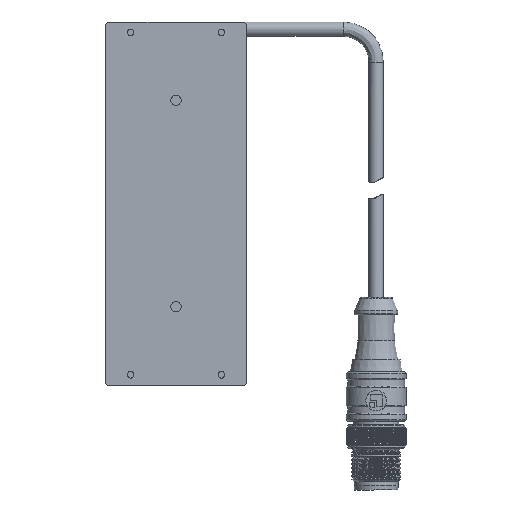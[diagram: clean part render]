
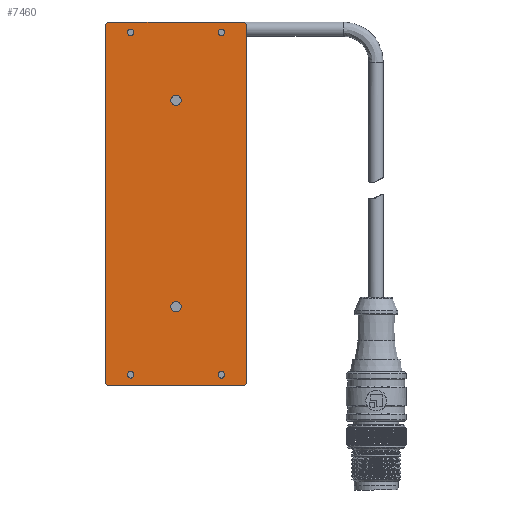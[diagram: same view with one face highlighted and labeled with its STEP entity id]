
A CAD part, front view. The second image highlights one B-rep face of the part: STEP entity #7460.
In plain terms, the highlighted planar face has unit normal (0, -1, 0).
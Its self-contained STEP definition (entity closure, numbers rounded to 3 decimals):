
#2616 = VERTEX_POINT ( 'NONE', #94748 ) ;
#2644 = VERTEX_POINT ( 'NONE', #94806 ) ;
#2656 = VERTEX_POINT ( 'NONE', #94783 ) ;
#2661 = VERTEX_POINT ( 'NONE', #94784 ) ;
#2665 = VERTEX_POINT ( 'NONE', #94813 ) ;
#2670 = VERTEX_POINT ( 'NONE', #94817 ) ;
#2692 = VERTEX_POINT ( 'NONE', #94837 ) ;
#2746 = VERTEX_POINT ( 'NONE', #94851 ) ;
#3638 = ORIENTED_EDGE ( 'NONE', *, *, #86287, .F. ) ;
#3639 = ORIENTED_EDGE ( 'NONE', *, *, #86014, .T. ) ;
#3641 = ORIENTED_EDGE ( 'NONE', *, *, #86281, .T. ) ;
#3656 = ORIENTED_EDGE ( 'NONE', *, *, #86188, .F. ) ;
#3675 = ORIENTED_EDGE ( 'NONE', *, *, #86109, .T. ) ;
#3688 = ORIENTED_EDGE ( 'NONE', *, *, #86063, .T. ) ;
#3708 = ORIENTED_EDGE ( 'NONE', *, *, #86243, .T. ) ;
#3716 = ORIENTED_EDGE ( 'NONE', *, *, #85967, .T. ) ;
#3717 = ORIENTED_EDGE ( 'NONE', *, *, #86044, .F. ) ;
#3719 = ORIENTED_EDGE ( 'NONE', *, *, #86262, .T. ) ;
#3720 = ORIENTED_EDGE ( 'NONE', *, *, #86156, .T. ) ;
#3738 = ORIENTED_EDGE ( 'NONE', *, *, #86253, .T. ) ;
#3740 = ORIENTED_EDGE ( 'NONE', *, *, #86084, .F. ) ;
#3753 = ORIENTED_EDGE ( 'NONE', *, *, #86142, .T. ) ;
#7460 = ADVANCED_FACE ( 'NONE', ( #23989, #24032, #23974, #24024, #24001, #24035, #23993 ), #24013, .F. ) ;
#12730 = EDGE_LOOP ( 'NONE', ( #3638 ) ) ;
#12760 = EDGE_LOOP ( 'NONE', ( #3738 ) ) ;
#12762 = EDGE_LOOP ( 'NONE', ( #3720 ) ) ;
#12777 = EDGE_LOOP ( 'NONE', ( #3641 ) ) ;
#12828 = EDGE_LOOP ( 'NONE', ( #3719 ) ) ;
#12832 = EDGE_LOOP ( 'NONE', ( #3656 ) ) ;
#12836 = EDGE_LOOP ( 'NONE', ( #3717, #3753, #3675, #3716, #3688, #3708, #3740, #3639 ) ) ;
#23974 = FACE_BOUND ( 'NONE', #12777, .T. ) ;
#23989 = FACE_BOUND ( 'NONE', #12730, .T. ) ;
#23993 = FACE_OUTER_BOUND ( 'NONE', #12836, .T. ) ;
#23996 = CARTESIAN_POINT ( 'NONE',  ( -17., 0., 88. ) ) ;
#24001 = FACE_BOUND ( 'NONE', #12828, .T. ) ;
#24013 = PLANE ( 'NONE',  #63402 ) ;
#24016 = DIRECTION ( 'NONE',  ( -1., 0., 0. ) ) ;
#24024 = FACE_BOUND ( 'NONE', #12760, .T. ) ;
#24032 = FACE_BOUND ( 'NONE', #12832, .T. ) ;
#24035 = FACE_BOUND ( 'NONE', #12762, .T. ) ;
#24056 = DIRECTION ( 'NONE',  ( 0., 1., 0. ) ) ;
#48237 = LINE ( 'NONE', #48240, #131643 ) ;
#48240 = CARTESIAN_POINT ( 'NONE',  ( -17., 0., 0.5 ) ) ;
#48244 = DIRECTION ( 'NONE',  ( 0.707, 0., -0.707 ) ) ;
#48319 = LINE ( 'NONE', #48342, #131624 ) ;
#48342 = CARTESIAN_POINT ( 'NONE',  ( 16.5, 0., 88. ) ) ;
#48365 = DIRECTION ( 'NONE',  ( -0.707, 0., 0.707 ) ) ;
#48369 = DIRECTION ( 'NONE',  ( 1., 0., 0. ) ) ;
#48373 = CARTESIAN_POINT ( 'NONE',  ( -17., 0., 88. ) ) ;
#48382 = DIRECTION ( 'NONE',  ( 1., 0., 0. ) ) ;
#48392 = LINE ( 'NONE', #48373, #131776 ) ;
#48405 = LINE ( 'NONE', #48406, #131740 ) ;
#48406 = CARTESIAN_POINT ( 'NONE',  ( -17., 0., 0. ) ) ;
#48429 = DIRECTION ( 'NONE',  ( 0., 0., -1. ) ) ;
#48460 = CARTESIAN_POINT ( 'NONE',  ( 17., 0., 88. ) ) ;
#48466 = LINE ( 'NONE', #48460, #131762 ) ;
#48486 = CARTESIAN_POINT ( 'NONE',  ( -17., 0., 88. ) ) ;
#48494 = LINE ( 'NONE', #48551, #131814 ) ;
#48512 = DIRECTION ( 'NONE',  ( 0., 0., -1. ) ) ;
#48514 = LINE ( 'NONE', #48486, #131787 ) ;
#48551 = CARTESIAN_POINT ( 'NONE',  ( -16.5, 0., 88. ) ) ;
#48562 = DIRECTION ( 'NONE',  ( -0.707, 0., -0.707 ) ) ;
#48573 = DIRECTION ( 'NONE',  ( 0., 1., 0. ) ) ;
#48629 = DIRECTION ( 'NONE',  ( -1., 0., 0. ) ) ;
#48640 = CARTESIAN_POINT ( 'NONE',  ( -11., 0., 85.5 ) ) ;
#48675 = DIRECTION ( 'NONE',  ( 0., -1., 0. ) ) ;
#48691 = DIRECTION ( 'NONE',  ( 0., 0., -1. ) ) ;
#48732 = CARTESIAN_POINT ( 'NONE',  ( 0., 0., 19. ) ) ;
#48773 = DIRECTION ( 'NONE',  ( 0.707, 0., 0.707 ) ) ;
#48796 = CARTESIAN_POINT ( 'NONE',  ( 17., 0., 0.5 ) ) ;
#48820 = DIRECTION ( 'NONE',  ( -1., 0., 0. ) ) ;
#48826 = CARTESIAN_POINT ( 'NONE',  ( 11., 0., 2.5 ) ) ;
#48828 = DIRECTION ( 'NONE',  ( 0., 1., 0. ) ) ;
#48848 = LINE ( 'NONE', #48796, #131885 ) ;
#48883 = DIRECTION ( 'NONE',  ( 0., 1., 0. ) ) ;
#48908 = CARTESIAN_POINT ( 'NONE',  ( 0., 0., 69. ) ) ;
#48910 = DIRECTION ( 'NONE',  ( 0., -1., 0. ) ) ;
#48912 = DIRECTION ( 'NONE',  ( 0., 0., -1. ) ) ;
#48937 = DIRECTION ( 'NONE',  ( -1., 0., 0. ) ) ;
#48939 = CARTESIAN_POINT ( 'NONE',  ( 11., 0., 85.5 ) ) ;
#48940 = DIRECTION ( 'NONE',  ( 0., 1., 0. ) ) ;
#48956 = CARTESIAN_POINT ( 'NONE',  ( -11., 0., 2.5 ) ) ;
#48965 = DIRECTION ( 'NONE',  ( -1., 0., 0. ) ) ;
#63402 = AXIS2_PLACEMENT_3D ( 'NONE', #23996, #24056, #24016 ) ;
#85967 = EDGE_CURVE ( 'NONE', #2644, #2665, #48237, .T. ) ;
#86014 = EDGE_CURVE ( 'NONE', #2692, #2670, #48319, .T. ) ;
#86044 = EDGE_CURVE ( 'NONE', #2746, #2670, #48392, .T. ) ;
#86063 = EDGE_CURVE ( 'NONE', #2665, #2616, #48405, .T. ) ;
#86084 = EDGE_CURVE ( 'NONE', #2692, #2661, #48466, .T. ) ;
#86109 = EDGE_CURVE ( 'NONE', #2656, #2644, #48514, .T. ) ;
#86142 = EDGE_CURVE ( 'NONE', #2746, #2656, #48494, .T. ) ;
#86156 = EDGE_CURVE ( 'NONE', #126386, #126386, #131750, .T. ) ;
#86188 = EDGE_CURVE ( 'NONE', #126276, #126276, #131840, .T. ) ;
#86243 = EDGE_CURVE ( 'NONE', #2616, #2661, #48848, .T. ) ;
#86253 = EDGE_CURVE ( 'NONE', #126281, #126281, #131854, .T. ) ;
#86262 = EDGE_CURVE ( 'NONE', #126301, #126301, #131838, .T. ) ;
#86281 = EDGE_CURVE ( 'NONE', #126421, #126421, #132038, .T. ) ;
#86287 = EDGE_CURVE ( 'NONE', #126484, #126484, #132030, .T. ) ;
#94748 = CARTESIAN_POINT ( 'NONE',  ( 16.5, 0., 0. ) ) ;
#94783 = CARTESIAN_POINT ( 'NONE',  ( -17., 0., 87.5 ) ) ;
#94784 = CARTESIAN_POINT ( 'NONE',  ( 17., 0., 0.5 ) ) ;
#94806 = CARTESIAN_POINT ( 'NONE',  ( -17., 0., 0.5 ) ) ;
#94813 = CARTESIAN_POINT ( 'NONE',  ( -16.5, 0., 0. ) ) ;
#94817 = CARTESIAN_POINT ( 'NONE',  ( 16.5, 0., 88. ) ) ;
#94837 = CARTESIAN_POINT ( 'NONE',  ( 17., 0., 87.5 ) ) ;
#94851 = CARTESIAN_POINT ( 'NONE',  ( -16.5, 0., 88. ) ) ;
#126276 = VERTEX_POINT ( 'NONE', #126379 ) ;
#126281 = VERTEX_POINT ( 'NONE', #126319 ) ;
#126301 = VERTEX_POINT ( 'NONE', #126323 ) ;
#126319 = CARTESIAN_POINT ( 'NONE',  ( 10.2, 0., 2.5 ) ) ;
#126323 = CARTESIAN_POINT ( 'NONE',  ( 10.2, 0., 85.5 ) ) ;
#126327 = CARTESIAN_POINT ( 'NONE',  ( -11.8, 0., 85.5 ) ) ;
#126379 = CARTESIAN_POINT ( 'NONE',  ( 0., 0., 17.75 ) ) ;
#126386 = VERTEX_POINT ( 'NONE', #126327 ) ;
#126398 = CARTESIAN_POINT ( 'NONE',  ( 0., 0., 67.75 ) ) ;
#126421 = VERTEX_POINT ( 'NONE', #126440 ) ;
#126440 = CARTESIAN_POINT ( 'NONE',  ( -11.8, 0., 2.5 ) ) ;
#126484 = VERTEX_POINT ( 'NONE', #126398 ) ;
#131624 = VECTOR ( 'NONE', #48365, 1000. ) ;
#131643 = VECTOR ( 'NONE', #48244, 1000. ) ;
#131740 = VECTOR ( 'NONE', #48369, 1000. ) ;
#131750 = CIRCLE ( 'NONE', #131798, 0.8 ) ;
#131762 = VECTOR ( 'NONE', #48429, 1000. ) ;
#131776 = VECTOR ( 'NONE', #48382, 1000. ) ;
#131787 = VECTOR ( 'NONE', #48512, 1000. ) ;
#131798 = AXIS2_PLACEMENT_3D ( 'NONE', #48640, #48573, #48629 ) ;
#131814 = VECTOR ( 'NONE', #48562, 1000. ) ;
#131825 = AXIS2_PLACEMENT_3D ( 'NONE', #48826, #48828, #48820 ) ;
#131838 = CIRCLE ( 'NONE', #131850, 0.8 ) ;
#131840 = CIRCLE ( 'NONE', #131901, 1.25 ) ;
#131850 = AXIS2_PLACEMENT_3D ( 'NONE', #48939, #48940, #48937 ) ;
#131854 = CIRCLE ( 'NONE', #131825, 0.8 ) ;
#131885 = VECTOR ( 'NONE', #48773, 1000. ) ;
#131901 = AXIS2_PLACEMENT_3D ( 'NONE', #48732, #48675, #48691 ) ;
#132027 = AXIS2_PLACEMENT_3D ( 'NONE', #48956, #48883, #48965 ) ;
#132030 = CIRCLE ( 'NONE', #132032, 1.25 ) ;
#132032 = AXIS2_PLACEMENT_3D ( 'NONE', #48908, #48910, #48912 ) ;
#132038 = CIRCLE ( 'NONE', #132027, 0.8 ) ;
